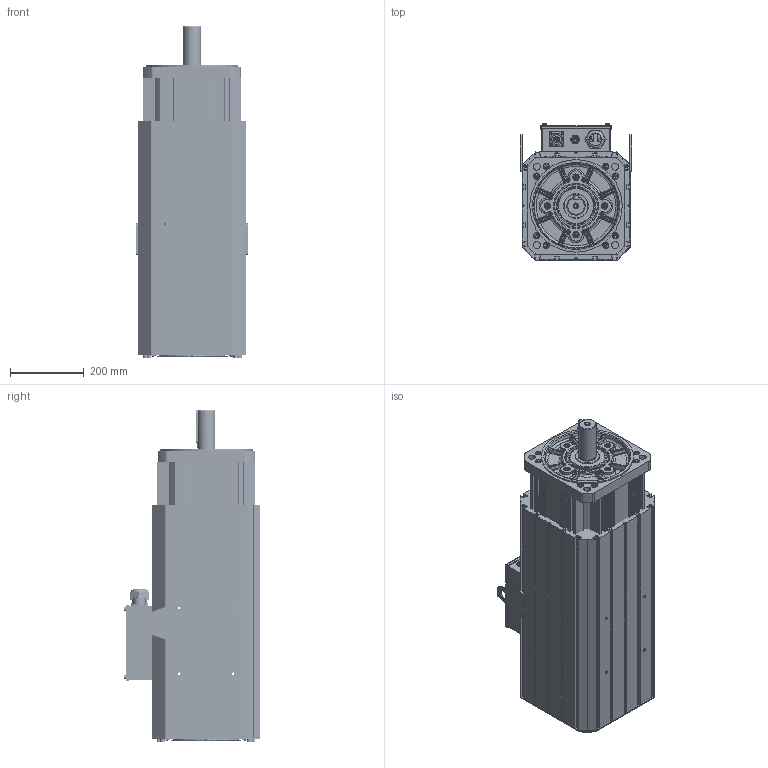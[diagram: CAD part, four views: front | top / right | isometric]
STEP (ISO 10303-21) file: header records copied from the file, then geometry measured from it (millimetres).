
FILE_DESCRIPTION (( 'STEP AP214' ), '1' );
FILE_NAME ('VM7-M26D-04515-D2FN.STEP', '2022-04-02T01:25:26', ( '' ), ( '' ), 'SwSTEP 2.0', 'SolidWorks 2014', '' );
FILE_SCHEMA (( 'AUTOMOTIVE_DESIGN' ));
Length unit declared in the file: millimetre
Products named in the file (3): 翋极; 俋褲; VM7-M26D-04515-D2FN
Assembly tree (2 placements, depth 2):
  VM7-M26D-04515-D2FN
    翋极
    俋褲
Bounding box: 302 x 368.5 x 898 mm (x, y, z)
Volume: 28393646 mm3; surface area: 4283710.3 mm2
Topology: 120 solids, 120 shells, 4432 faces, 11332 edges, 7180 vertices
Faces by surface type: plane 2597, cylinder 1089, bspline 445, cone 301
Entity records: 152572 total; most frequent: CARTESIAN_POINT 45525, ORIENTED_EDGE 22412, DIRECTION 21224, EDGE_CURVE 11206, VECTOR 7212, LINE 7212, VERTEX_POINT 7180, AXIS2_PLACEMENT_3D 7006
